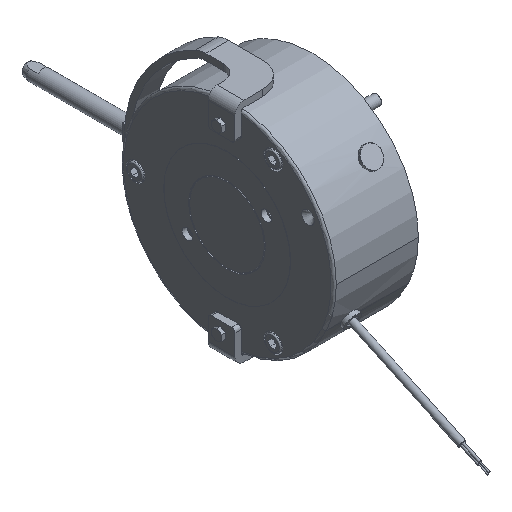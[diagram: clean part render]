
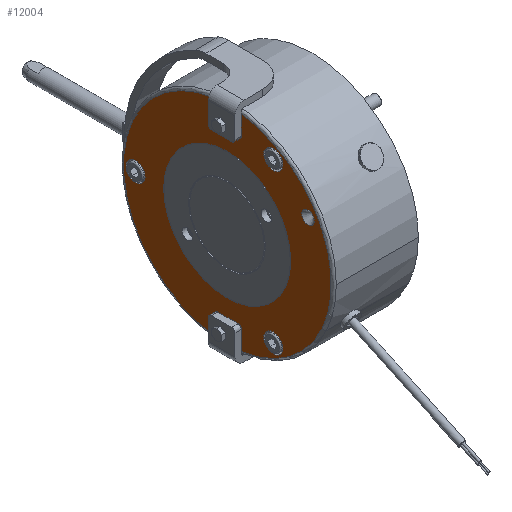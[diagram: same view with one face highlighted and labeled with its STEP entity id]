
A CAD part, isometric view. The second image highlights one B-rep face of the part: STEP entity #12004.
In plain terms, the highlighted planar face has unit normal (-1, 0, 0).
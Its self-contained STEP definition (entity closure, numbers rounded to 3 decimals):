
#838=FACE_BOUND('',#2780,.T.);
#839=FACE_BOUND('',#2781,.T.);
#840=FACE_BOUND('',#2782,.T.);
#841=FACE_BOUND('',#2783,.T.);
#842=FACE_BOUND('',#2784,.T.);
#1326=CIRCLE('',#13035,2.5);
#1327=CIRCLE('',#13038,2.5);
#1328=CIRCLE('',#13041,2.5);
#1329=CIRCLE('',#13043,2.5);
#1423=CIRCLE('',#13201,5.);
#1424=CIRCLE('',#13202,5.);
#1462=CIRCLE('',#13259,82.);
#1463=CIRCLE('',#13260,82.);
#1464=CIRCLE('',#13261,50.);
#1465=CIRCLE('',#13262,50.);
#1466=CIRCLE('',#13263,7.5);
#1467=CIRCLE('',#13264,7.5);
#1468=CIRCLE('',#13265,7.5);
#1469=CIRCLE('',#13266,7.5);
#1470=CIRCLE('',#13267,7.5);
#1471=CIRCLE('',#13268,7.5);
#2076=FACE_OUTER_BOUND('',#2779,.T.);
#2779=EDGE_LOOP('',(#10006,#10007,#10008,#10009,#10010,#10011,#10012,#10013,
#10014,#10015,#10016,#10017));
#2780=EDGE_LOOP('',(#10018,#10019));
#2781=EDGE_LOOP('',(#10020,#10021));
#2782=EDGE_LOOP('',(#10022,#10023));
#2783=EDGE_LOOP('',(#10024,#10025));
#2784=EDGE_LOOP('',(#10026,#10027));
#3447=LINE('',#20671,#4077);
#3458=LINE('',#20703,#4088);
#3475=LINE('',#20758,#4105);
#3481=LINE('',#20771,#4111);
#3490=LINE('',#20811,#4120);
#3493=LINE('',#20819,#4123);
#4077=VECTOR('',#15563,10.);
#4088=VECTOR('',#15590,10.);
#4105=VECTOR('',#15643,10.);
#4111=VECTOR('',#15655,10.);
#4120=VECTOR('',#15700,10.);
#4123=VECTOR('',#15709,10.);
#5077=VERTEX_POINT('',#20644);
#5078=VERTEX_POINT('',#20645);
#5088=VERTEX_POINT('',#20668);
#5089=VERTEX_POINT('',#20670);
#5102=VERTEX_POINT('',#20702);
#5113=VERTEX_POINT('',#20730);
#5122=VERTEX_POINT('',#20757);
#5126=VERTEX_POINT('',#20769);
#5138=VERTEX_POINT('',#20806);
#5139=VERTEX_POINT('',#20810);
#5140=VERTEX_POINT('',#20814);
#5141=VERTEX_POINT('',#20818);
#5266=VERTEX_POINT('',#21282);
#5267=VERTEX_POINT('',#21283);
#5297=VERTEX_POINT('',#21404);
#5298=VERTEX_POINT('',#21405);
#5299=VERTEX_POINT('',#21408);
#5300=VERTEX_POINT('',#21409);
#5301=VERTEX_POINT('',#21412);
#5302=VERTEX_POINT('',#21413);
#5303=VERTEX_POINT('',#21416);
#5304=VERTEX_POINT('',#21417);
#6619=EDGE_CURVE('',#5089,#5088,#3447,.T.);
#6635=EDGE_CURVE('',#5102,#5077,#3458,.T.);
#6663=EDGE_CURVE('',#5122,#5113,#3475,.T.);
#6670=EDGE_CURVE('',#5078,#5126,#3481,.T.);
#6689=EDGE_CURVE('',#5138,#5102,#1326,.T.);
#6691=EDGE_CURVE('',#5139,#5138,#3490,.T.);
#6693=EDGE_CURVE('',#5140,#5122,#1327,.T.);
#6695=EDGE_CURVE('',#5141,#5140,#3493,.T.);
#6697=EDGE_CURVE('',#5088,#5141,#1328,.T.);
#6698=EDGE_CURVE('',#5126,#5139,#1329,.T.);
#6880=EDGE_CURVE('',#5266,#5267,#1423,.T.);
#6881=EDGE_CURVE('',#5267,#5266,#1424,.T.);
#6928=EDGE_CURVE('',#5078,#5113,#1462,.T.);
#6929=EDGE_CURVE('',#5089,#5077,#1463,.T.);
#6930=EDGE_CURVE('',#5297,#5298,#1464,.T.);
#6931=EDGE_CURVE('',#5298,#5297,#1465,.T.);
#6932=EDGE_CURVE('',#5299,#5300,#1466,.T.);
#6933=EDGE_CURVE('',#5300,#5299,#1467,.T.);
#6934=EDGE_CURVE('',#5301,#5302,#1468,.T.);
#6935=EDGE_CURVE('',#5302,#5301,#1469,.T.);
#6936=EDGE_CURVE('',#5303,#5304,#1470,.T.);
#6937=EDGE_CURVE('',#5304,#5303,#1471,.T.);
#10006=ORIENTED_EDGE('',*,*,#6663,.T.);
#10007=ORIENTED_EDGE('',*,*,#6928,.F.);
#10008=ORIENTED_EDGE('',*,*,#6670,.T.);
#10009=ORIENTED_EDGE('',*,*,#6698,.T.);
#10010=ORIENTED_EDGE('',*,*,#6691,.T.);
#10011=ORIENTED_EDGE('',*,*,#6689,.T.);
#10012=ORIENTED_EDGE('',*,*,#6635,.T.);
#10013=ORIENTED_EDGE('',*,*,#6929,.F.);
#10014=ORIENTED_EDGE('',*,*,#6619,.T.);
#10015=ORIENTED_EDGE('',*,*,#6697,.T.);
#10016=ORIENTED_EDGE('',*,*,#6695,.T.);
#10017=ORIENTED_EDGE('',*,*,#6693,.T.);
#10018=ORIENTED_EDGE('',*,*,#6880,.T.);
#10019=ORIENTED_EDGE('',*,*,#6881,.T.);
#10020=ORIENTED_EDGE('',*,*,#6930,.T.);
#10021=ORIENTED_EDGE('',*,*,#6931,.T.);
#10022=ORIENTED_EDGE('',*,*,#6932,.T.);
#10023=ORIENTED_EDGE('',*,*,#6933,.T.);
#10024=ORIENTED_EDGE('',*,*,#6934,.T.);
#10025=ORIENTED_EDGE('',*,*,#6935,.T.);
#10026=ORIENTED_EDGE('',*,*,#6936,.T.);
#10027=ORIENTED_EDGE('',*,*,#6937,.T.);
#10798=PLANE('',#13258);
#12004=ADVANCED_FACE('',(#2076,#838,#839,#840,#841,#842),#10798,.T.);
#13035=AXIS2_PLACEMENT_3D('',#20807,#15695,#15696);
#13038=AXIS2_PLACEMENT_3D('',#20815,#15704,#15705);
#13041=AXIS2_PLACEMENT_3D('',#20822,#15713,#15714);
#13043=AXIS2_PLACEMENT_3D('',#20824,#15717,#15718);
#13201=AXIS2_PLACEMENT_3D('',#21284,#16099,#16100);
#13202=AXIS2_PLACEMENT_3D('',#21285,#16101,#16102);
#13258=AXIS2_PLACEMENT_3D('',#21401,#16221,#16222);
#13259=AXIS2_PLACEMENT_3D('',#21402,#16223,#16224);
#13260=AXIS2_PLACEMENT_3D('',#21403,#16225,#16226);
#13261=AXIS2_PLACEMENT_3D('',#21406,#16227,#16228);
#13262=AXIS2_PLACEMENT_3D('',#21407,#16229,#16230);
#13263=AXIS2_PLACEMENT_3D('',#21410,#16231,#16232);
#13264=AXIS2_PLACEMENT_3D('',#21411,#16233,#16234);
#13265=AXIS2_PLACEMENT_3D('',#21414,#16235,#16236);
#13266=AXIS2_PLACEMENT_3D('',#21415,#16237,#16238);
#13267=AXIS2_PLACEMENT_3D('',#21418,#16239,#16240);
#13268=AXIS2_PLACEMENT_3D('',#21419,#16241,#16242);
#15563=DIRECTION('',(0.,0.,-1.));
#15590=DIRECTION('',(0.,0.,-1.));
#15643=DIRECTION('',(0.,0.,1.));
#15655=DIRECTION('',(0.,0.,1.));
#15695=DIRECTION('center_axis',(1.,0.,0.));
#15696=DIRECTION('ref_axis',(0.,-0.707,0.707));
#15700=DIRECTION('',(0.,-1.,0.));
#15704=DIRECTION('center_axis',(1.,0.,0.));
#15705=DIRECTION('ref_axis',(0.,0.707,-0.707));
#15709=DIRECTION('',(0.,1.,0.));
#15713=DIRECTION('center_axis',(1.,0.,0.));
#15714=DIRECTION('ref_axis',(0.,-0.707,-0.707));
#15717=DIRECTION('center_axis',(1.,0.,0.));
#15718=DIRECTION('ref_axis',(0.,0.707,0.707));
#16099=DIRECTION('center_axis',(1.,0.,0.));
#16100=DIRECTION('ref_axis',(0.,0.,1.));
#16101=DIRECTION('center_axis',(1.,0.,0.));
#16102=DIRECTION('ref_axis',(0.,0.,1.));
#16221=DIRECTION('center_axis',(-1.,0.,0.));
#16222=DIRECTION('ref_axis',(0.,0.,1.));
#16223=DIRECTION('center_axis',(1.,0.,0.));
#16224=DIRECTION('ref_axis',(0.,-1.,0.));
#16225=DIRECTION('center_axis',(1.,0.,0.));
#16226=DIRECTION('ref_axis',(0.,-1.,0.));
#16227=DIRECTION('center_axis',(1.,0.,0.));
#16228=DIRECTION('ref_axis',(0.,1.,0.));
#16229=DIRECTION('center_axis',(1.,0.,0.));
#16230=DIRECTION('ref_axis',(0.,1.,0.));
#16231=DIRECTION('center_axis',(1.,0.,0.));
#16232=DIRECTION('ref_axis',(0.,0.,1.));
#16233=DIRECTION('center_axis',(1.,0.,0.));
#16234=DIRECTION('ref_axis',(0.,0.,1.));
#16235=DIRECTION('center_axis',(1.,0.,0.));
#16236=DIRECTION('ref_axis',(0.,0.,1.));
#16237=DIRECTION('center_axis',(1.,0.,0.));
#16238=DIRECTION('ref_axis',(0.,0.,1.));
#16239=DIRECTION('center_axis',(1.,0.,0.));
#16240=DIRECTION('ref_axis',(0.,0.,1.));
#16241=DIRECTION('center_axis',(1.,0.,0.));
#16242=DIRECTION('ref_axis',(0.,0.,1.));
#20644=CARTESIAN_POINT('',(-66.8,-11.,-81.259));
#20645=CARTESIAN_POINT('',(-66.8,10.,-81.388));
#20668=CARTESIAN_POINT('',(-66.8,-11.,66.));
#20670=CARTESIAN_POINT('',(-66.8,-11.,81.259));
#20671=CARTESIAN_POINT('',(-66.8,-11.,44.75));
#20702=CARTESIAN_POINT('',(-66.8,-11.,-66.));
#20703=CARTESIAN_POINT('',(-66.8,-11.,-42.25));
#20730=CARTESIAN_POINT('',(-66.8,10.,81.388));
#20757=CARTESIAN_POINT('',(-66.8,10.,66.));
#20758=CARTESIAN_POINT('',(-66.8,10.,42.25));
#20769=CARTESIAN_POINT('',(-66.8,10.,-66.));
#20771=CARTESIAN_POINT('',(-66.8,10.,-44.75));
#20806=CARTESIAN_POINT('',(-66.8,-8.5,-63.5));
#20807=CARTESIAN_POINT('Origin',(-66.8,-8.5,-66.));
#20810=CARTESIAN_POINT('',(-66.8,7.5,-63.5));
#20811=CARTESIAN_POINT('',(-66.8,38.5,-63.5));
#20814=CARTESIAN_POINT('',(-66.8,7.5,63.5));
#20815=CARTESIAN_POINT('Origin',(-66.8,7.5,66.));
#20818=CARTESIAN_POINT('',(-66.8,-8.5,63.5));
#20819=CARTESIAN_POINT('',(-66.8,28.,63.5));
#20822=CARTESIAN_POINT('Origin',(-66.8,-8.5,66.));
#20824=CARTESIAN_POINT('Origin',(-66.8,7.5,-66.));
#21282=CARTESIAN_POINT('',(-66.8,-63.653,41.75));
#21283=CARTESIAN_POINT('',(-66.8,-63.653,31.75));
#21284=CARTESIAN_POINT('Origin',(-66.8,-63.653,36.75));
#21285=CARTESIAN_POINT('Origin',(-66.8,-63.653,36.75));
#21401=CARTESIAN_POINT('Origin',(-66.8,67.,0.));
#21402=CARTESIAN_POINT('Origin',(-66.8,0.,0.));
#21403=CARTESIAN_POINT('Origin',(-66.8,0.,0.));
#21404=CARTESIAN_POINT('',(-66.8,50.,0.));
#21405=CARTESIAN_POINT('',(-66.8,-50.,0.));
#21406=CARTESIAN_POINT('Origin',(-66.8,0.,0.));
#21407=CARTESIAN_POINT('Origin',(-66.8,0.,0.));
#21408=CARTESIAN_POINT('',(-66.8,72.5,7.5));
#21409=CARTESIAN_POINT('',(-66.8,72.5,-7.5));
#21410=CARTESIAN_POINT('Origin',(-66.8,72.5,0.));
#21411=CARTESIAN_POINT('Origin',(-66.8,72.5,0.));
#21412=CARTESIAN_POINT('',(-66.8,-36.25,-55.287));
#21413=CARTESIAN_POINT('',(-66.8,-36.25,-70.287));
#21414=CARTESIAN_POINT('Origin',(-66.8,-36.25,-62.787));
#21415=CARTESIAN_POINT('Origin',(-66.8,-36.25,-62.787));
#21416=CARTESIAN_POINT('',(-66.8,-36.25,70.287));
#21417=CARTESIAN_POINT('',(-66.8,-36.25,55.287));
#21418=CARTESIAN_POINT('Origin',(-66.8,-36.25,62.787));
#21419=CARTESIAN_POINT('Origin',(-66.8,-36.25,62.787));
